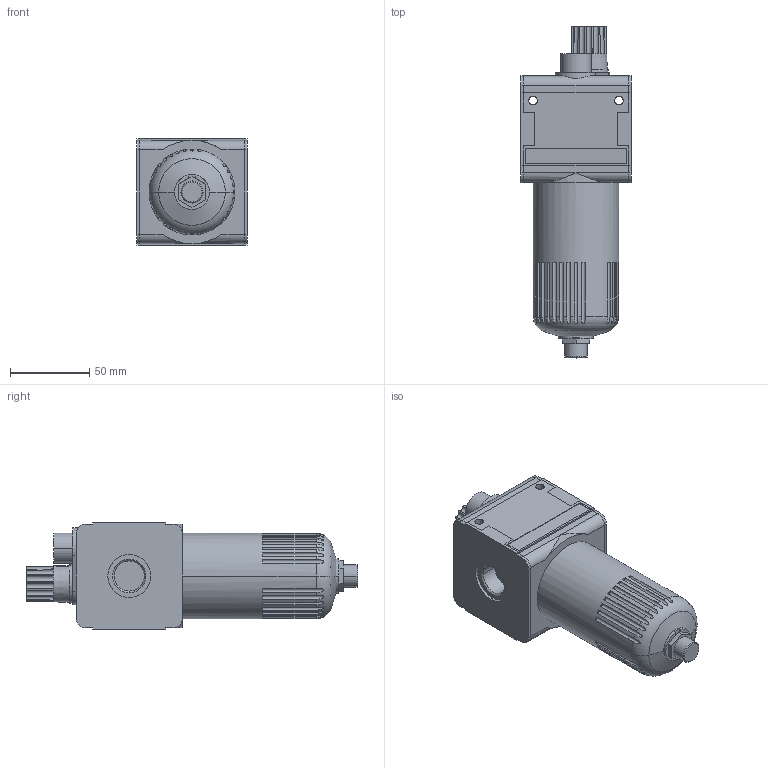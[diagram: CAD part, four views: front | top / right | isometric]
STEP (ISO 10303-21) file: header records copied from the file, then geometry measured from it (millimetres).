
FILE_DESCRIPTION((''),'2;1');
FILE_NAME('R412007657_ASM','2019-10-10T',('hug2hc'),(''),'CREO PARAMETRIC BY PTC INC, 2016260','CREO PARAMETRIC BY PTC INC, 2016260','');
FILE_SCHEMA(('CONFIG_CONTROL_DESIGN'));
Length unit declared in the file: millimetre
Products named in the file (4): NL4-BODY-LUBRICATOR-PC-G12; NL4-RESERVOIR-PC-ELI; NL4-CAP-LBM; R412007657_ASM
Assembly tree (4 placements, depth 2):
  R412007657_ASM
    NL4-BODY-LUBRICATOR-PC-G12
    NL4-RESERVOIR-PC-ELI
    NL4-CAP-LBM  x2
Bounding box: 69.5 x 209 x 67 mm (x, y, z)
Volume: 524238.1 mm3; surface area: 74802.2 mm2
Topology: 4 solids, 4 shells, 321 faces, 882 edges, 583 vertices
Faces by surface type: plane 208, cylinder 97, cone 12, sphere 2, torus 2
Entity records: 11048 total; most frequent: CARTESIAN_POINT 3330, ORIENTED_EDGE 1608, DIRECTION 1599, EDGE_CURVE 804, AXIS2_PLACEMENT_3D 557, VERTEX_POINT 531, VECTOR 485, LINE 485
